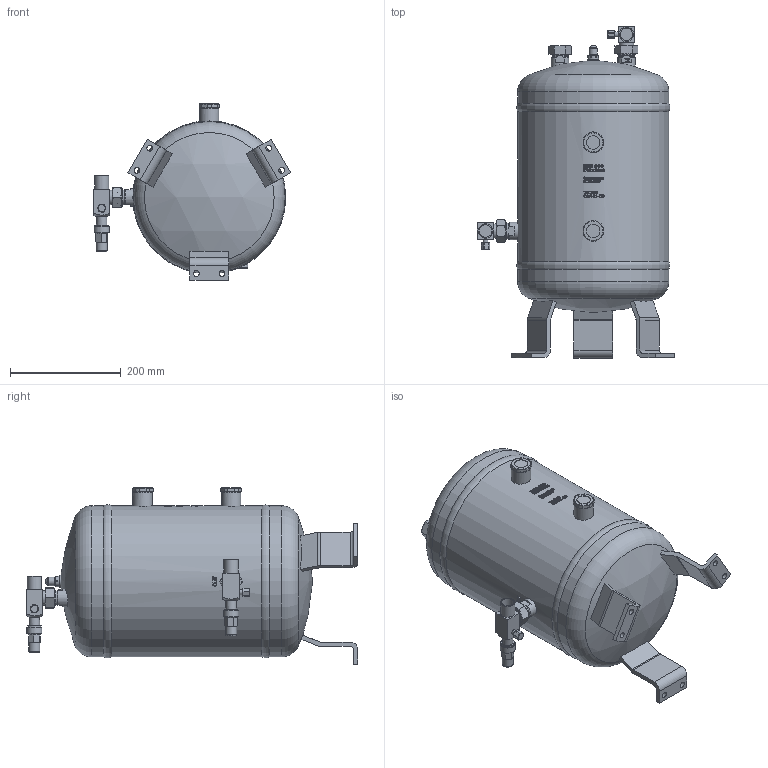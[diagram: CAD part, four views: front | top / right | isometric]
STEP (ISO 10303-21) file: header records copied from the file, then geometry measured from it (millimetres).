
FILE_DESCRIPTION(/* description */ (''),/* implementation_level */ '2;1');
FILE_NAME(/* name */ 'P:\OSA\OSA-21-CD\OSA-21-CD.stp',/* time_stamp */ '2017-10-05T08:57:32+02:00',/* author */ ('neufeld'),/* organization */ (''),/* preprocessor_version */ 'ST-DEVELOPER v16.1',/* originating_system */ 'Autodesk Inventor 2016',/* authorisation */ '');
FILE_SCHEMA (('AUTOMOTIVE_DESIGN { 1 0 10303 214 3 1 1 }'));
Length unit declared in the file: millimetre
Products named in the file (4): OSA-21-CD_1; OSA-21-CD_2; OSA-21-CD_3; OSA-21-CD
Assembly tree (3 placements, depth 2):
  OSA-21-CD
    OSA-21-CD_1
    OSA-21-CD_2
    OSA-21-CD_3
Bounding box: 356.51 x 599.97 x 318.65 mm (x, y, z)
Volume: 25036128.8 mm3; surface area: 584342.4 mm2
Topology: 3 solids, 3 shells, 1399 faces, 3682 edges, 2426 vertices
Faces by surface type: plane 727, bspline 386, cylinder 204, cone 71, torus 7, sphere 4
Full cylindrical faces by diameter (mm): 7.2 x1, 9 x2, 10.5 x6, 13.5 x2, 15.312 x1, 17 x1, 19 x4, 20 x2, 22.1 x2, 22.22 x2, 22.3 x2, 22.4 x1, 24.2 x2, 24.5 x2, 25.4 x2, 26 x4, 27 x2, 27.5 x2, 28.7 x5, 29 x2, 29.5 x2, 31.75 x3, 32 x3, 32.15 x2, 32.2 x2, 35 x2, 273 x1, 273.2 x2
Entity records: 51490 total; most frequent: CARTESIAN_POINT 19613, ORIENTED_EDGE 7144, DIRECTION 5605, EDGE_CURVE 3560, VERTEX_POINT 2394, AXIS2_PLACEMENT_3D 1987, EDGE_LOOP 1638, LINE 1631
